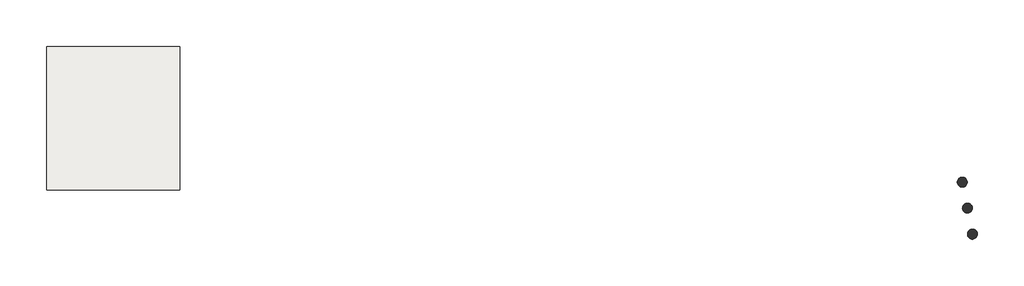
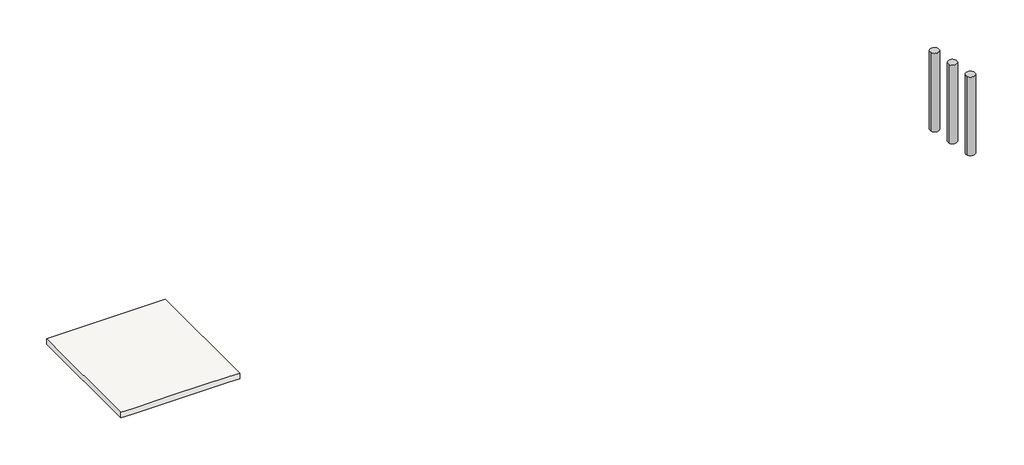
# One storey: 3 columns, 1 slab.
"""IFC4 building model written with IfcOpenShell, lengths in millimetres."""

from ifc_helpers import new_model, si_unit, point, frame, frame_2d, origin, place, context, project, spatial, circle_curve, trimmed, segment, composite_curve, outline, extrude, faceted_brep, element, save

model = new_model("IFC4")

# Units and contexts
model_context = context("Model", 3, world=origin())
ifc_project = project(units=[si_unit("LENGTHUNIT", "METRE", prefix="MILLI")], contexts=[model_context])

# Site, building, storey
site = spatial("IfcSite", under=ifc_project)
building = spatial("IfcBuilding", under=site)
storey = spatial("IfcBuildingStorey", under=building, Name="PRETIL TERRAZAS", Elevation=16000.0)

# Columns
placement = place(None, origin())
element("IfcColumn", 1, ObjectType="M_Pilar redondo : Diámetro 152 mm", at=placement, inside=storey, context=model_context, shape_type="SweptSolid", body=[
    extrude(outline(composite_curve([segment(trimmed(circle_curve(frame_2d((54212.3359326, 29079.1938942)), 75.0), [point((54285.9497095, 29093.5470069))], [point((54138.7221557, 29064.8407814))], False, "CARTESIAN"), True, "CONTINUOUS"), segment(trimmed(circle_curve(frame_2d((54212.3359326, 29079.1938942)), 75.0), [point((54138.7221557, 29064.8407814))], [point((54197.9828198, 29152.8076711))], False, "CARTESIAN"), True, "CONTINUOUS"), segment(trimmed(circle_curve(frame_2d((54212.3359326, 29079.1938942)), 75.0), [point((54197.9828198, 29152.8076711))], [point((54285.9497095, 29093.5470069))], False, "CARTESIAN"), True, "CONTINUOUS")], self_intersect=False)), frame((0.0, 0.0, 16000.0), z_axis=(0.0, 0.0, 1.0), x_axis=(1.0, 0.0, 0.0)), (0.0, 0.0, 1.0), 1400.0),
])
element("IfcColumn", 2, ObjectType="M_Pilar redondo : Diámetro 152 mm", at=placement, inside=storey, context=model_context, shape_type="SweptSolid", body=[
    extrude(outline(composite_curve([segment(trimmed(circle_curve(frame_2d((54135.7859977, 29471.8007044)), 75.0), [point((54209.3997746, 29486.1538172))], [point((54062.1722208, 29457.4475916))], False, "CARTESIAN"), True, "CONTINUOUS"), segment(trimmed(circle_curve(frame_2d((54135.7859977, 29471.8007044)), 75.0), [point((54062.1722208, 29457.4475916))], [point((54121.4328849, 29545.4144813))], False, "CARTESIAN"), True, "CONTINUOUS"), segment(trimmed(circle_curve(frame_2d((54135.7859977, 29471.8007044)), 75.0), [point((54121.4328849, 29545.4144813))], [point((54209.3997746, 29486.1538172))], False, "CARTESIAN"), True, "CONTINUOUS")], self_intersect=False)), frame((0.0, 0.0, 16000.0), z_axis=(0.0, 0.0, 1.0), x_axis=(1.0, 0.0, 0.0)), (0.0, 0.0, 1.0), 1400.0),
])
element("IfcColumn", 3, ObjectType="M_Pilar redondo : Diámetro 152 mm", at=placement, inside=storey, context=model_context, shape_type="SweptSolid", body=[
    extrude(outline(composite_curve([segment(trimmed(circle_curve(frame_2d((54059.2360628, 29864.4075147)), 75.0), [point((54132.8498397, 29878.7606275))], [point((53985.6222859, 29850.0544019))], False, "CARTESIAN"), True, "CONTINUOUS"), segment(trimmed(circle_curve(frame_2d((54059.2360628, 29864.4075147)), 75.0), [point((53985.6222859, 29850.0544019))], [point((54044.88295, 29938.0212916))], False, "CARTESIAN"), True, "CONTINUOUS"), segment(trimmed(circle_curve(frame_2d((54059.2360628, 29864.4075147)), 75.0), [point((54044.88295, 29938.0212916))], [point((54132.8498397, 29878.7606275))], False, "CARTESIAN"), True, "CONTINUOUS")], self_intersect=False)), frame((0.0, 0.0, 16000.0), z_axis=(0.0, 0.0, 1.0), x_axis=(1.0, 0.0, 0.0)), (0.0, 0.0, 1.0), 1400.0),
])

# Slab
element("IfcSlab", 4, ObjectType="LOSA SOBREPASO", at=placement, inside=storey, context=model_context, shape_type="Brep", body=[
    faceted_brep([(40254.5059119, 31913.9733508, 15750.0), (42259.5059119, 31913.9733508, 15750.0), (42259.5059119, 29744.010184, 15750.0), (42069.5059119, 29744.010184, 15750.0), (40444.5059119, 29744.010184, 15750.0), (40254.5059119, 29744.010184, 15750.0), (40254.5059119, 31913.9733508, 15850.0), (40254.5059119, 29744.010184, 15850.0), (40444.5059119, 29744.010184, 15850.0), (41169.5059119, 29744.010184, 15850.0), (42069.5059119, 29744.010184, 15850.0), (42259.5059119, 29744.010184, 15850.0), (42259.5059119, 31913.9733508, 15850.0)], [[[0, 1, 2, 3, 4, 5]], [[6, 7, 8, 9, 10, 11, 12]], [[1, 0, 6, 12]], [[2, 1, 12, 11]], [[5, 4, 3, 2, 11, 10, 9, 8, 7]], [[0, 5, 7, 6]]]),
])

save(model, "model.ifc")
